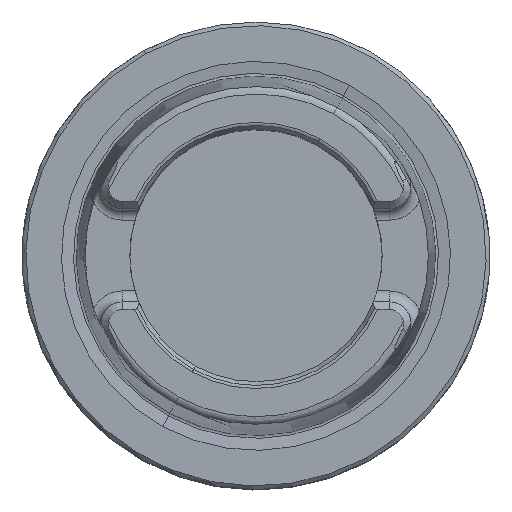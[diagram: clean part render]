
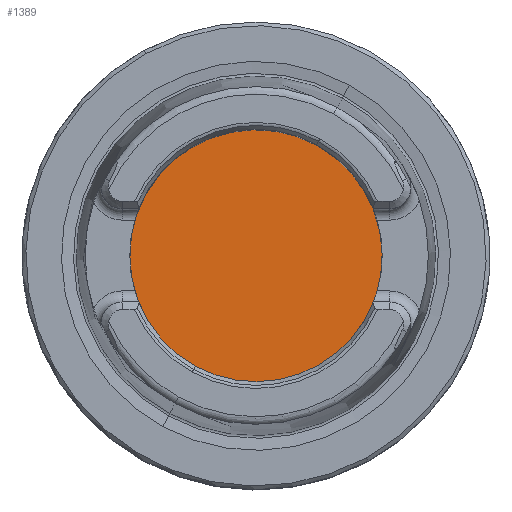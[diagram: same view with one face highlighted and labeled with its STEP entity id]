
A CAD part, top view. The second image highlights one B-rep face of the part: STEP entity #1389.
In plain terms, the highlighted planar face has unit normal (0, 0, 1).
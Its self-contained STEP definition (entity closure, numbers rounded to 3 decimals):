
#231=AXIS2_PLACEMENT_3D('Circle Axis2P3D',#229,#230,$) ;
#968=AXIS2_PLACEMENT_3D('Circle Axis2P3D',#966,#967,$) ;
#1383=AXIS2_PLACEMENT_3D('Plane Axis2P3D',#1380,#1381,#1382) ;
#226=CARTESIAN_POINT('Vertex',(8.15,14.919,-10.)) ;
#229=CARTESIAN_POINT('Axis2P3D Location',(0.,0.,-10.)) ;
#233=CARTESIAN_POINT('Vertex',(-8.15,-14.919,-10.)) ;
#966=CARTESIAN_POINT('Axis2P3D Location',(0.,0.,-10.)) ;
#1380=CARTESIAN_POINT('Axis2P3D Location',(0.,-15.75,-10.)) ;
#230=DIRECTION('Axis2P3D Direction',(0.,0.,-1.)) ;
#967=DIRECTION('Axis2P3D Direction',(0.,0.,-1.)) ;
#1381=DIRECTION('Axis2P3D Direction',(0.,0.,-1.)) ;
#1382=DIRECTION('Axis2P3D XDirection',(-1.,0.,0.)) ;
#1386=ORIENTED_EDGE('',*,*,#235,.F.) ;
#1387=ORIENTED_EDGE('',*,*,#970,.F.) ;
#1389=ADVANCED_FACE('NO_CUT',(#1388),#1384,.F.) ;
#232=CIRCLE('generated circle',#231,17.) ;
#969=CIRCLE('generated circle',#968,17.) ;
#235=EDGE_CURVE('',#227,#234,#232,.T.) ;
#970=EDGE_CURVE('',#234,#227,#969,.T.) ;
#1385=EDGE_LOOP('',(#1386,#1387)) ;
#1388=FACE_OUTER_BOUND('',#1385,.T.) ;
#1384=PLANE('',#1383) ;
#227=VERTEX_POINT('',#226) ;
#234=VERTEX_POINT('',#233) ;
